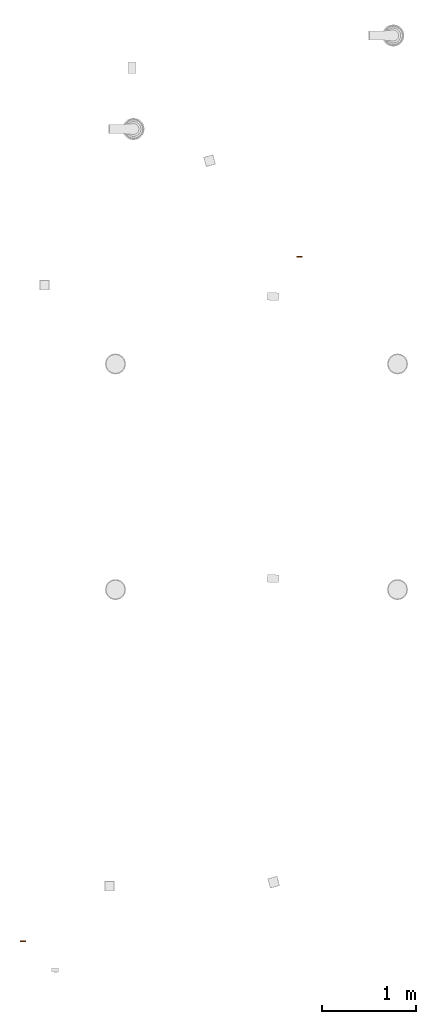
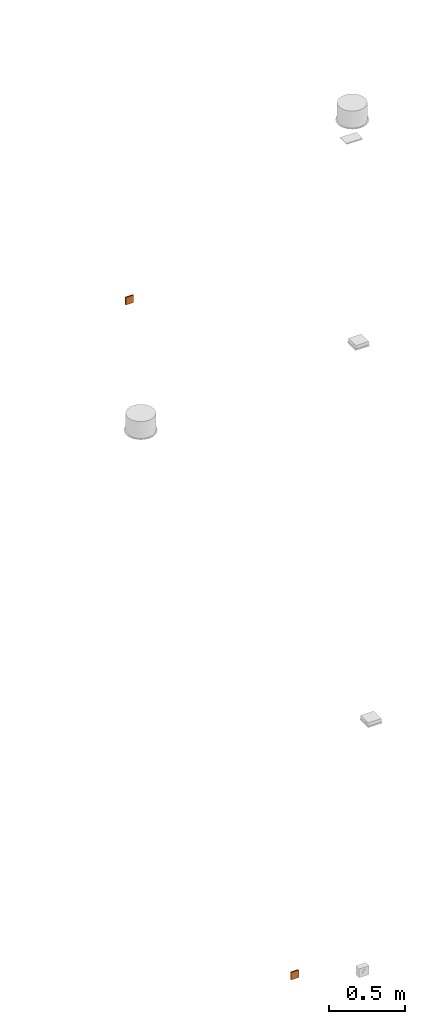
# One storey, part 7 of 9: 2 proxies.
"""IFC2X3 building model written with IfcOpenShell, lengths in millimetres."""

import ifcopenshell
import ifcopenshell.guid

model = None  # the IFC model being written
_history = None  # IfcOwnerHistory: only IFC2X3 demands one
_inside = {}  # id of a spatial element -> (the spatial element, [elements in it])
_under = {}  # id of a project, library or spatial element -> (it, [spatial elements below it])
_declared = {}  # id of a project -> (the project, [libraries it declares])
_typed = {}  # id of a type object -> (the type object, [elements of that type])
_made_of = {}  # id of a material, layer set ... -> (it, [elements and type objects made of it])


def new_model(schema):
    """Start an empty IFC model of exactly this schema.

    Asked for "IFC4X3", IfcOpenShell would pick the latest addendum, in which some entities
    have other attributes; the version numbers below select the first issue.
    IFC2X3 requires an IfcOwnerHistory on every rooted entity: one is made here for all.
    """
    global model, _history
    if schema == "IFC4X3":
        model = ifcopenshell.file(schema_version=(4, 3, 0, 0))
    else:
        model = ifcopenshell.file(schema=schema)
    _inside.clear()
    _under.clear()
    _declared.clear()
    _typed.clear()
    _made_of.clear()
    _history = None
    if model.schema == "IFC2X3":
        org = make("IfcOrganization", Name="unknown")
        user = make(
            "IfcPersonAndOrganization",
            ThePerson=make("IfcPerson", FamilyName="unknown"),
            TheOrganization=org,
        )
        app = make(
            "IfcApplication",
            ApplicationDeveloper=org,
            Version="unknown",
            ApplicationFullName="unknown",
            ApplicationIdentifier="unknown",
        )
        _history = make(
            "IfcOwnerHistory",
            OwningUser=user,
            OwningApplication=app,
            ChangeAction="ADDED",
            CreationDate=0,
        )
    return model


def make(cls, **values):
    """One entity of the class cls with the attributes given. An attribute that is None is left unset."""
    return model.create_entity(
        cls, **{name: value for name, value in values.items() if value is not None}
    )


def entity(cls, *values):
    """Any entity or typed value of the class cls, its attributes in the order of the schema. None: left unset."""
    e = model.create_entity(cls)
    for i, value in enumerate(values):
        if value is not None:
            e[i] = value
    return e


def rooted(cls, **values):
    """An entity with a GlobalId (a new one), such as an element, a storey or a relation."""
    return make(cls, GlobalId=ifcopenshell.guid.new(), OwnerHistory=_history, **values)


def si_unit(unit_type, name, prefix=None):
    """IfcSIUnit, for example si_unit("LENGTHUNIT", "METRE", prefix="MILLI")."""
    return make("IfcSIUnit", UnitType=unit_type, Prefix=prefix, Name=name)


def converted_unit(unit_type, name, factor, base, dimensions=None, offset=None):
    """IfcConversionBasedUnit, such as the inch: factor (a typed value) times the base unit."""
    return make(
        "IfcConversionBasedUnit"
        if offset is None
        else "IfcConversionBasedUnitWithOffset",
        ConversionOffset=offset,
        Dimensions=None
        if dimensions is None
        else entity("IfcDimensionalExponents", *dimensions),
        UnitType=unit_type,
        Name=name,
        ConversionFactor=make(
            "IfcMeasureWithUnit", ValueComponent=factor, UnitComponent=base
        ),
    )


def derived_unit(unit_type, elements):
    """IfcDerivedUnit: a product of units, each with its exponent."""
    return make(
        "IfcDerivedUnit",
        Elements=[
            make("IfcDerivedUnitElement", Unit=unit, Exponent=power)
            for unit, power in elements
        ],
        UnitType=unit_type,
    )


def assignment(units):
    """IfcUnitAssignment: the units of a project."""
    return None if units is None else make("IfcUnitAssignment", Units=units)


def point(xyz):
    """IfcCartesianPoint."""
    return None if xyz is None else make("IfcCartesianPoint", Coordinates=xyz)


def direction(xyz):
    """IfcDirection."""
    return None if xyz is None else make("IfcDirection", DirectionRatios=xyz)


def frame(location, z_axis=None, x_axis=None):
    """IfcAxis2Placement3D, a coordinate frame: its origin and axes. An axis left out is left unset."""
    return make(
        "IfcAxis2Placement3D",
        Location=point(location),
        Axis=direction(z_axis),
        RefDirection=direction(x_axis),
    )


def frame_2d(location, x_axis=None):
    """IfcAxis2Placement2D, a coordinate frame in the plane: its origin and x axis."""
    return make(
        "IfcAxis2Placement2D", Location=point(location), RefDirection=direction(x_axis)
    )


def origin():
    """The frame at (0, 0, 0) with its axes left unset."""
    return frame((0.0, 0.0, 0.0))


def origin_2d_with_axis():
    """The frame at (0, 0) in the plane with the x axis (1, 0) written out."""
    return frame_2d((0.0, 0.0), x_axis=(1.0, 0.0))


def place(relative_to, where):
    """IfcLocalPlacement: puts the frame where relative to a parent placement (None: the world)."""
    return make(
        "IfcLocalPlacement", PlacementRelTo=relative_to, RelativePlacement=where
    )


def context(
    kind, dimensions, precision=None, world=None, true_north=None, identifier=None
):
    """IfcGeometricRepresentationContext, for example the 3D "Model" context."""
    return make(
        "IfcGeometricRepresentationContext",
        ContextIdentifier=identifier,
        ContextType=kind,
        CoordinateSpaceDimension=dimensions,
        Precision=precision,
        WorldCoordinateSystem=world,
        TrueNorth=true_north,
    )


def subcontext(parent, identifier, kind, view, scale=None):
    """IfcGeometricRepresentationSubContext, for example "Body" below "Model"."""
    return make(
        "IfcGeometricRepresentationSubContext",
        ContextIdentifier=identifier,
        ContextType=kind,
        ParentContext=parent,
        TargetScale=scale,
        TargetView=view,
    )


def project(units=None, contexts=None):
    """IfcProject with its units and contexts."""
    return rooted(
        "IfcProject",
        Name="project",
        RepresentationContexts=contexts,
        UnitsInContext=assignment(units),
    )


def spatial(cls, under=None, at=None, **own):
    """A site, building, storey or space (cls), placed at a placement, below another one or the project."""
    s = rooted(cls, ObjectPlacement=at, **own)
    if under is not None:
        _under.setdefault(under.id(), (under, []))[1].append(s)
    return s


def profile(cls, at=None, kind="AREA", **sizes):
    """A parametric profile (cls). Its sizes go by their IFC names, for example OverallWidth=200.0."""
    return make(cls, ProfileType=kind, Position=at, **sizes)


def rectangle(**sizes):
    """IfcRectangleProfileDef."""
    return profile("IfcRectangleProfileDef", **sizes)


def extrude(swept, where, along, depth):
    """IfcExtrudedAreaSolid: the profile swept, set in the frame where, extruded along a direction by depth."""
    return make(
        "IfcExtrudedAreaSolid",
        SweptArea=swept,
        Position=where,
        ExtrudedDirection=direction(along),
        Depth=depth,
    )


def shape(context_of_items, identifier, shape_type, items):
    """IfcShapeRepresentation: the items that make up one representation, for example the "Body"."""
    return make(
        "IfcShapeRepresentation",
        ContextOfItems=context_of_items,
        RepresentationIdentifier=identifier,
        RepresentationType=shape_type,
        Items=items,
    )


def source(mapping_origin, context_of_items, identifier, shape_type, items):
    """IfcRepresentationMap: a shape defined once, which mapped items show again and again."""
    return make(
        "IfcRepresentationMap",
        MappingOrigin=mapping_origin,
        MappedRepresentation=shape(context_of_items, identifier, shape_type, items),
    )


def transform(
    local_origin,
    x_axis=None,
    y_axis=None,
    z_axis=None,
    scale=None,
    scale2=None,
    scale3=None,
    uniform=True,
):
    """IfcCartesianTransformationOperator3D, or its non-uniform kind. x_axis, y_axis, z_axis: its Axis1, 2, 3."""
    if uniform:
        return make(
            "IfcCartesianTransformationOperator3D",
            Axis1=direction(x_axis),
            Axis2=direction(y_axis),
            LocalOrigin=point(local_origin),
            Scale=scale,
            Axis3=direction(z_axis),
        )
    return make(
        "IfcCartesianTransformationOperator3DnonUniform",
        Axis1=direction(x_axis),
        Axis2=direction(y_axis),
        LocalOrigin=point(local_origin),
        Scale=scale,
        Axis3=direction(z_axis),
        Scale2=scale2,
        Scale3=scale3,
    )


def mapped(mapping_source, mapping_target):
    """IfcMappedItem: shows the shape of a source again, moved by a transform."""
    return make(
        "IfcMappedItem", MappingSource=mapping_source, MappingTarget=mapping_target
    )


def material(Name=None, Category=None):
    """IfcMaterial."""
    return make("IfcMaterial", Name=Name, Category=Category)


def made_of(thing, what):
    """Note that an element or type object is made of a material, layer set ...; save() writes the relation."""
    if what is not None:
        _made_of.setdefault(what.id(), (what, []))[1].append(thing)
    return thing


def type_object(cls, material=None, **own):
    """A type object (cls), such as IfcWallType, which elements share."""
    return made_of(rooted(cls, **own), material)


def element(
    cls,
    number,
    at=None,
    inside=None,
    cuts=None,
    type_object=None,
    material=None,
    context=None,
    identifier="Body",
    shape_type=None,
    held_by="IfcProductDefinitionShape",
    body=None,
    shapes=None,
    **own,
):
    """One element of the class cls, such as IfcWall. Its Tag is "e" and its number.

    at: its placement. inside: the storey or other place that contains it. cuts: it is an
    opening in that element (IfcRelVoidsElement). A single representation is given by context,
    identifier, shape_type and body (its items); several are given by shapes. held_by: the class
    of the entity that holds the representations. save() writes the other relations.
    """
    e = rooted(cls, Tag="e%d" % number, ObjectPlacement=at, **own)
    if body is not None:
        shapes = [shape(context, identifier, shape_type, body)]
    if shapes is not None:
        e.Representation = make(held_by, Representations=shapes)
    if inside is not None:
        _inside.setdefault(inside.id(), (inside, []))[1].append(e)
    if cuts is not None:
        rooted(
            "IfcRelVoidsElement", RelatingBuildingElement=cuts, RelatedOpeningElement=e
        )
    if type_object is not None:
        _typed.setdefault(type_object.id(), (type_object, []))[1].append(e)
    return made_of(e, material)


def aggregate(whole, parts):
    """IfcRelAggregates: a whole, such as a stair, and the parts it consists of."""
    return rooted("IfcRelAggregates", RelatingObject=whole, RelatedObjects=parts)


def save(model, path):
    """Write the relations noted so far, then the file.

    IfcRelAggregates (storeys below a building ...), IfcRelContainedInSpatialStructure (elements
    in a storey), IfcRelDefinesByType, IfcRelAssociatesMaterial and IfcRelDeclares: one each for
    every whole, place, type object, material and project.
    """
    for whole, parts in _under.values():
        aggregate(whole, parts)
    for where, things in _inside.values():
        rooted(
            "IfcRelContainedInSpatialStructure",
            RelatedElements=things,
            RelatingStructure=where,
        )
    for kind, things in _typed.values():
        rooted("IfcRelDefinesByType", RelatedObjects=things, RelatingType=kind)
    for what, things in _made_of.values():
        rooted("IfcRelAssociatesMaterial", RelatedObjects=things, RelatingMaterial=what)
    for by, libraries in _declared.values():
        rooted("IfcRelDeclares", RelatingContext=by, RelatedDefinitions=libraries)
    model.write(path)


model = new_model("IFC2X3")

# Units and contexts
model_context = context("Model", 3, precision=0.01, world=frame((0.0, 4.29681676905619e-09, 0.0)), true_north=direction((4.01073788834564e-13, 1.0)))
plan_context = context("Plan", 3, precision=0.01, world=frame((0.0, 4.29681676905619e-09, 0.0)), true_north=direction((4.01073788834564e-13, 1.0)))
body_context = subcontext(model_context, "Body", "Model", "MODEL_VIEW")
ifc_project = project(units=[converted_unit("PLANEANGLEUNIT", "DEGREE", entity("IfcPositiveLengthMeasure", 0.0174532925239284), si_unit("PLANEANGLEUNIT", "RADIAN"), dimensions=[0, 0, 0, 0, 0, 0, 0]), si_unit("AREAUNIT", "SQUARE_METRE"), si_unit("LENGTHUNIT", "METRE", prefix="MILLI"), si_unit("MASSUNIT", "GRAM", prefix="KILO"), si_unit("POWERUNIT", "WATT"), si_unit("PRESSUREUNIT", "PASCAL", prefix="KILO"), si_unit("FORCEUNIT", "NEWTON", prefix="KILO"), si_unit("ELECTRICVOLTAGEUNIT", "VOLT"), si_unit("ELECTRICCURRENTUNIT", "AMPERE"), si_unit("THERMODYNAMICTEMPERATUREUNIT", "DEGREE_CELSIUS"), si_unit("TIMEUNIT", "SECOND"), si_unit("VOLUMEUNIT", "CUBIC_METRE"), derived_unit("LINEARVELOCITYUNIT", [(si_unit("LENGTHUNIT", "METRE"), 1), (si_unit("TIMEUNIT", "SECOND"), -1)]), derived_unit("VOLUMETRICFLOWRATEUNIT", [(si_unit("VOLUMEUNIT", "CUBIC_METRE"), 1), (si_unit("TIMEUNIT", "SECOND"), -1)]), derived_unit("THERMALTRANSMITTANCEUNIT", [(si_unit("POWERUNIT", "WATT"), 1), (si_unit("THERMODYNAMICTEMPERATUREUNIT", "KELVIN"), -1), (si_unit("AREAUNIT", "SQUARE_METRE"), -1)]), derived_unit("SOUNDPRESSUREUNIT", [(si_unit("PRESSUREUNIT", "PASCAL"), 1)])], contexts=[model_context, plan_context])

# Site, building, storey
site_placement = place(None, frame((0.0, -4.29681676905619e-09, 0.0), z_axis=(0.0, 0.0, 1.0), x_axis=(1.0, 0.0, 0.0)))
site = spatial("IfcSite", under=ifc_project, at=site_placement, Name="Default", CompositionType="ELEMENT")
building_placement = place(site_placement, frame((0.0, 4.29681676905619e-09, 0.0), z_axis=(0.0, 0.0, 1.0), x_axis=(1.0, 0.0, 0.0)))
building = spatial("IfcBuilding", under=site, at=building_placement, CompositionType="ELEMENT")
storey_placement = place(building_placement, frame((0.0, 0.0, 210900.0), z_axis=(0.0, 0.0, 1.0), x_axis=(1.0, 0.0, 0.0)))
storey = spatial("IfcBuildingStorey", under=building, at=storey_placement, Name="Nivå F", CompositionType="ELEMENT", Elevation=210900.0)

# Proxies
ifc_material = material(Name="Material1")
building_element_proxy_type = type_object("IfcBuildingElementProxyType", Name="Bryter 1-polet påvegg:1066A", PredefinedType="NOTDEFINED", material=ifc_material)
shared_shape = source(origin(), body_context, "Body", "SweptSolid", [
    extrude(rectangle(XDim=2.0, YDim=51.9999999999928, at=frame_2d((-1.0547118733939e-15, 0.0), x_axis=(1.0, 0.0))), frame((0.0, 11.0, -26.0), z_axis=(0.0, 0.0, 1.0), x_axis=(0.0, -1.0, 0.0)), (0.0, 0.0, 1.0), 52.0000000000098),
    extrude(rectangle(XDim=10.0, YDim=60.0, at=origin_2d_with_axis()), frame((0.0, 5.0, -30.0), z_axis=(0.0, 0.0, 1.0), x_axis=(0.0, 1.0, 0.0)), (0.0, 0.0, 1.0), 60.0000000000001),
])
for number, where, z_axis, x_axis, name in (
    (1, (714514.398096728, 434853.618189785, 1000.0), (0.0, 0.0, 1.0), (1.0, 0.0, 0.0), "Bryter 1-polet påvegg:1066A"),
    (2, (717457.509070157, 442135.458126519, 1000.0), (0.0, 0.0, 1.0), (1.0, 0.0, 0.0), "Bryter 1-polet påvegg:1066A"),
):
    element("IfcBuildingElementProxy", number, at=place(storey_placement, frame(where, z_axis=z_axis, x_axis=x_axis)), inside=storey, type_object=building_element_proxy_type, material=ifc_material, Name=name, ObjectType="Bryter 1-polet påvegg:1066A", context=body_context, shape_type="MappedRepresentation", body=[
        mapped(shared_shape, transform((0.0, 0.0, 0.0), scale=1.0)),
    ])

save(model, "model.ifc")
